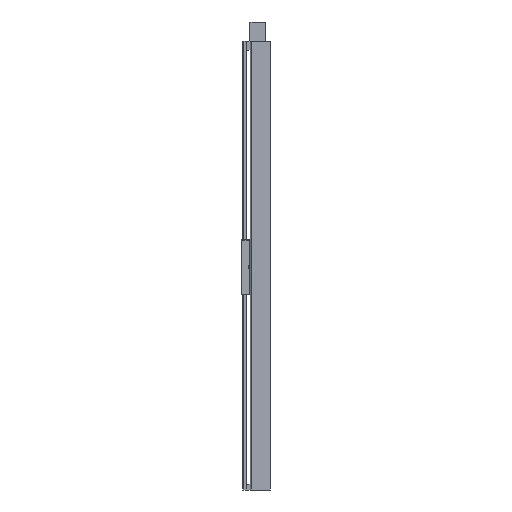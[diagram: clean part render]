
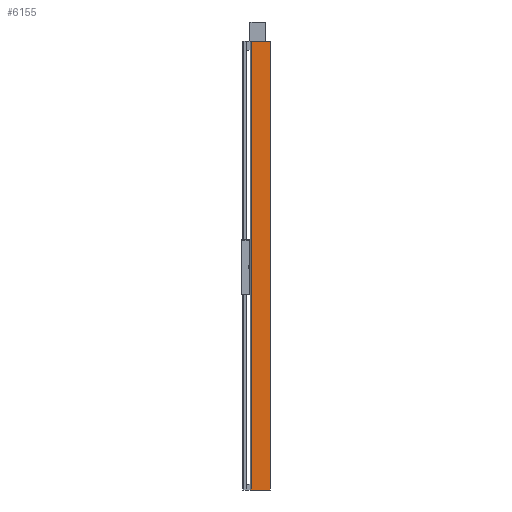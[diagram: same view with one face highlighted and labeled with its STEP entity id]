
A CAD part, left-side view. The second image highlights one B-rep face of the part: STEP entity #6155.
In plain terms, the highlighted planar face has unit normal (-1, 0, 0).
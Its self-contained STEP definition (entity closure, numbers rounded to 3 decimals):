
#1937=CARTESIAN_POINT('',(-68.,65.5,1495.));
#1938=VERTEX_POINT('',#1937);
#1946=CARTESIAN_POINT('',(-68.0,0.5,1495.));
#1947=VERTEX_POINT('',#1946);
#1948=CARTESIAN_POINT('',(-68.0,0.5,1495.));
#1949=DIRECTION('',(0.0,1.0,0.0));
#1950=VECTOR('',#1949,65.0);
#1951=LINE('',#1948,#1950);
#1952=EDGE_CURVE('',#1947,#1938,#1951,.T.);
#5386=CARTESIAN_POINT('',(-68.0,0.5,-20.0));
#5387=VERTEX_POINT('',#5386);
#5396=CARTESIAN_POINT('',(-68.,65.5,-20.0));
#5397=VERTEX_POINT('',#5396);
#5398=CARTESIAN_POINT('',(-68.,65.5,-20.0));
#5399=DIRECTION('',(0.0,-1.0,0.0));
#5400=VECTOR('',#5399,65.0);
#5401=LINE('',#5398,#5400);
#5402=EDGE_CURVE('',#5397,#5387,#5401,.T.);
#6104=CARTESIAN_POINT('',(-68.0,0.5,-20.0));
#6105=DIRECTION('',(0.0,0.0,1.0));
#6106=VECTOR('',#6105,1515.);
#6107=LINE('',#6104,#6106);
#6108=EDGE_CURVE('',#5387,#1947,#6107,.T.);
#6139=CARTESIAN_POINT('',(-68.0,0.5,0.0));
#6140=DIRECTION('',(-1.0,0.0,0.0));
#6141=DIRECTION('',(0.0,0.0,1.0));
#6142=AXIS2_PLACEMENT_3D('',#6139,#6140,#6141);
#6143=PLANE('',#6142);
#6144=CARTESIAN_POINT('',(-68.,65.5,-20.0));
#6145=DIRECTION('',(0.0,0.0,1.0));
#6146=VECTOR('',#6145,1515.);
#6147=LINE('',#6144,#6146);
#6148=EDGE_CURVE('',#5397,#1938,#6147,.T.);
#6149=ORIENTED_EDGE('',*,*,#6148,.F.);
#6150=ORIENTED_EDGE('',*,*,#5402,.T.);
#6151=ORIENTED_EDGE('',*,*,#6108,.T.);
#6152=ORIENTED_EDGE('',*,*,#1952,.T.);
#6153=EDGE_LOOP('',(#6149,#6150,#6151,#6152));
#6154=FACE_OUTER_BOUND('',#6153,.T.);
#6155=ADVANCED_FACE('',(#6154),#6143,.T.);
